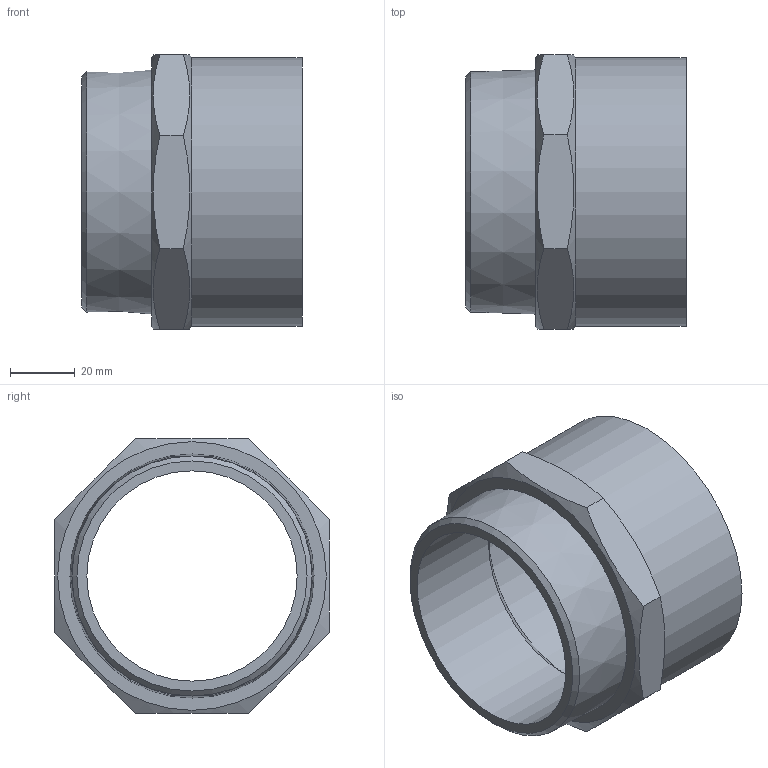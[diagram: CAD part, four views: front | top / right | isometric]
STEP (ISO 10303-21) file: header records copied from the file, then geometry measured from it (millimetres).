
FILE_DESCRIPTION((''),'2;1');
FILE_NAME('\\Lg50001\Groups\SANHA Legnica\Engineering\Public\RYSUNKI\SANHA POLSKA\4243G\step\14243_76-212(3).stp','2008-08-27T12:47:36',('pajchrowski'),(''),'Autodesk Inventor 2008','Autodesk Inventor 2008','');
FILE_SCHEMA(('AUTOMOTIVE_DESIGN { 1 0 10303 214 1 1 1 1 }'));
Length unit declared in the file: millimetre
Products named in the file (1): 14243_76-212(3)
Bounding box: 68 x 84.85 x 84.85 mm (x, y, z)
Volume: 82740.9 mm3; surface area: 36588.6 mm2
Topology: 1 solids, 1 shells, 20 faces, 45 edges, 29 vertices
Faces by surface type: plane 12, cone 5, cylinder 3
Full cylindrical faces by diameter (mm): 65 x1, 76.315 x1, 83 x1
Entity records: 512 total; most frequent: CARTESIAN_POINT 115, DIRECTION 72, ORIENTED_EDGE 70, EDGE_CURVE 35, AXIS2_PLACEMENT_3D 32, EDGE_LOOP 32, VERTEX_POINT 27, FACE_OUTER_BOUND 20
